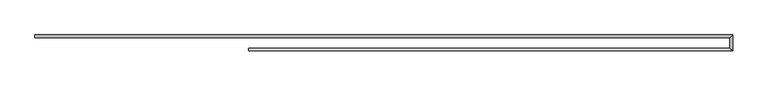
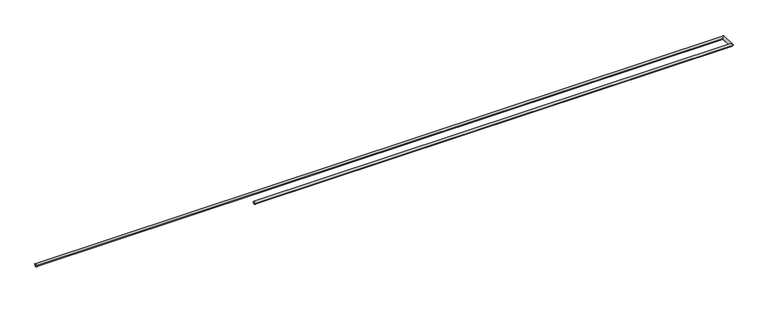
"""IFC4 building model written with IfcOpenShell, lengths in millimetres: railing geometry, Corrimão em aço."""

import ifcopenshell
import ifcopenshell.guid

model = None  # the IFC model being written
_history = None  # IfcOwnerHistory: only IFC2X3 demands one
_inside = {}  # id of a spatial element -> (the spatial element, [elements in it])
_under = {}  # id of a project, library or spatial element -> (it, [spatial elements below it])
_declared = {}  # id of a project -> (the project, [libraries it declares])
_typed = {}  # id of a type object -> (the type object, [elements of that type])
_made_of = {}  # id of a material, layer set ... -> (it, [elements and type objects made of it])


def new_model(schema):
    """Start an empty IFC model of exactly this schema.

    Asked for "IFC4X3", IfcOpenShell would pick the latest addendum, in which some entities
    have other attributes; the version numbers below select the first issue.
    IFC2X3 requires an IfcOwnerHistory on every rooted entity: one is made here for all.
    """
    global model, _history
    if schema == "IFC4X3":
        model = ifcopenshell.file(schema_version=(4, 3, 0, 0))
    else:
        model = ifcopenshell.file(schema=schema)
    _inside.clear()
    _under.clear()
    _declared.clear()
    _typed.clear()
    _made_of.clear()
    _history = None
    if model.schema == "IFC2X3":
        org = make("IfcOrganization", Name="unknown")
        user = make(
            "IfcPersonAndOrganization",
            ThePerson=make("IfcPerson", FamilyName="unknown"),
            TheOrganization=org,
        )
        app = make(
            "IfcApplication",
            ApplicationDeveloper=org,
            Version="unknown",
            ApplicationFullName="unknown",
            ApplicationIdentifier="unknown",
        )
        _history = make(
            "IfcOwnerHistory",
            OwningUser=user,
            OwningApplication=app,
            ChangeAction="ADDED",
            CreationDate=0,
        )
    return model


def make(cls, **values):
    """One entity of the class cls with the attributes given. An attribute that is None is left unset."""
    return model.create_entity(
        cls, **{name: value for name, value in values.items() if value is not None}
    )


def rooted(cls, **values):
    """An entity with a GlobalId (a new one), such as an element, a storey or a relation."""
    return make(cls, GlobalId=ifcopenshell.guid.new(), OwnerHistory=_history, **values)


def si_unit(unit_type, name, prefix=None):
    """IfcSIUnit, for example si_unit("LENGTHUNIT", "METRE", prefix="MILLI")."""
    return make("IfcSIUnit", UnitType=unit_type, Prefix=prefix, Name=name)


def assignment(units):
    """IfcUnitAssignment: the units of a project."""
    return None if units is None else make("IfcUnitAssignment", Units=units)


def point(xyz):
    """IfcCartesianPoint."""
    return None if xyz is None else make("IfcCartesianPoint", Coordinates=xyz)


def direction(xyz):
    """IfcDirection."""
    return None if xyz is None else make("IfcDirection", DirectionRatios=xyz)


def frame(location, z_axis=None, x_axis=None):
    """IfcAxis2Placement3D, a coordinate frame: its origin and axes. An axis left out is left unset."""
    return make(
        "IfcAxis2Placement3D",
        Location=point(location),
        Axis=direction(z_axis),
        RefDirection=direction(x_axis),
    )


def origin():
    """The frame at (0, 0, 0) with its axes left unset."""
    return frame((0.0, 0.0, 0.0))


def place(relative_to, where):
    """IfcLocalPlacement: puts the frame where relative to a parent placement (None: the world)."""
    return make(
        "IfcLocalPlacement", PlacementRelTo=relative_to, RelativePlacement=where
    )


def context(
    kind, dimensions, precision=None, world=None, true_north=None, identifier=None
):
    """IfcGeometricRepresentationContext, for example the 3D "Model" context."""
    return make(
        "IfcGeometricRepresentationContext",
        ContextIdentifier=identifier,
        ContextType=kind,
        CoordinateSpaceDimension=dimensions,
        Precision=precision,
        WorldCoordinateSystem=world,
        TrueNorth=true_north,
    )


def project(units=None, contexts=None):
    """IfcProject with its units and contexts."""
    return rooted(
        "IfcProject",
        Name="project",
        RepresentationContexts=contexts,
        UnitsInContext=assignment(units),
    )


def spatial(cls, under=None, at=None, **own):
    """A site, building, storey or space (cls), placed at a placement, below another one or the project."""
    s = rooted(cls, ObjectPlacement=at, **own)
    if under is not None:
        _under.setdefault(under.id(), (under, []))[1].append(s)
    return s


def circle_curve(where, radius):
    """IfcCircle in the frame where."""
    return make("IfcCircle", Position=where, Radius=radius)


def ellipse_curve(where, semi_axis1, semi_axis2):
    """IfcEllipse in the frame where."""
    return make(
        "IfcEllipse", Position=where, SemiAxis1=semi_axis1, SemiAxis2=semi_axis2
    )


def shape(context_of_items, identifier, shape_type, items):
    """IfcShapeRepresentation: the items that make up one representation, for example the "Body"."""
    return make(
        "IfcShapeRepresentation",
        ContextOfItems=context_of_items,
        RepresentationIdentifier=identifier,
        RepresentationType=shape_type,
        Items=items,
    )


def source(mapping_origin, context_of_items, identifier, shape_type, items):
    """IfcRepresentationMap: a shape defined once, which mapped items show again and again."""
    return make(
        "IfcRepresentationMap",
        MappingOrigin=mapping_origin,
        MappedRepresentation=shape(context_of_items, identifier, shape_type, items),
    )


def transform(
    local_origin,
    x_axis=None,
    y_axis=None,
    z_axis=None,
    scale=None,
    scale2=None,
    scale3=None,
    uniform=True,
):
    """IfcCartesianTransformationOperator3D, or its non-uniform kind. x_axis, y_axis, z_axis: its Axis1, 2, 3."""
    if uniform:
        return make(
            "IfcCartesianTransformationOperator3D",
            Axis1=direction(x_axis),
            Axis2=direction(y_axis),
            LocalOrigin=point(local_origin),
            Scale=scale,
            Axis3=direction(z_axis),
        )
    return make(
        "IfcCartesianTransformationOperator3DnonUniform",
        Axis1=direction(x_axis),
        Axis2=direction(y_axis),
        LocalOrigin=point(local_origin),
        Scale=scale,
        Axis3=direction(z_axis),
        Scale2=scale2,
        Scale3=scale3,
    )


def mapped(mapping_source, mapping_target):
    """IfcMappedItem: shows the shape of a source again, moved by a transform."""
    return make(
        "IfcMappedItem", MappingSource=mapping_source, MappingTarget=mapping_target
    )


def made_of(thing, what):
    """Note that an element or type object is made of a material, layer set ...; save() writes the relation."""
    if what is not None:
        _made_of.setdefault(what.id(), (what, []))[1].append(thing)
    return thing


def element(
    cls,
    number,
    at=None,
    inside=None,
    cuts=None,
    type_object=None,
    material=None,
    context=None,
    identifier="Body",
    shape_type=None,
    held_by="IfcProductDefinitionShape",
    body=None,
    shapes=None,
    **own,
):
    """One element of the class cls, such as IfcWall. Its Tag is "e" and its number.

    at: its placement. inside: the storey or other place that contains it. cuts: it is an
    opening in that element (IfcRelVoidsElement). A single representation is given by context,
    identifier, shape_type and body (its items); several are given by shapes. held_by: the class
    of the entity that holds the representations. save() writes the other relations.
    """
    e = rooted(cls, Tag="e%d" % number, ObjectPlacement=at, **own)
    if body is not None:
        shapes = [shape(context, identifier, shape_type, body)]
    if shapes is not None:
        e.Representation = make(held_by, Representations=shapes)
    if inside is not None:
        _inside.setdefault(inside.id(), (inside, []))[1].append(e)
    if cuts is not None:
        rooted(
            "IfcRelVoidsElement", RelatingBuildingElement=cuts, RelatedOpeningElement=e
        )
    if type_object is not None:
        _typed.setdefault(type_object.id(), (type_object, []))[1].append(e)
    return made_of(e, material)


def aggregate(whole, parts):
    """IfcRelAggregates: a whole, such as a stair, and the parts it consists of."""
    return rooted("IfcRelAggregates", RelatingObject=whole, RelatedObjects=parts)


def save(model, path):
    """Write the relations noted so far, then the file.

    IfcRelAggregates (storeys below a building ...), IfcRelContainedInSpatialStructure (elements
    in a storey), IfcRelDefinesByType, IfcRelAssociatesMaterial and IfcRelDeclares: one each for
    every whole, place, type object, material and project.
    """
    for whole, parts in _under.values():
        aggregate(whole, parts)
    for where, things in _inside.values():
        rooted(
            "IfcRelContainedInSpatialStructure",
            RelatedElements=things,
            RelatingStructure=where,
        )
    for kind, things in _typed.values():
        rooted("IfcRelDefinesByType", RelatedObjects=things, RelatingType=kind)
    for what, things in _made_of.values():
        rooted("IfcRelAssociatesMaterial", RelatedObjects=things, RelatingMaterial=what)
    for by, libraries in _declared.values():
        rooted("IfcRelDeclares", RelatingContext=by, RelatedDefinitions=libraries)
    model.write(path)


def plane_surface(at):
    """IfcPlane: the flat surface through the origin of the frame at, square to its z axis."""
    return make("IfcPlane", Position=at)


def cylinder_surface(at, radius):
    """IfcCylindricalSurface: all points at the distance radius from the z axis of the frame at."""
    return make("IfcCylindricalSurface", Position=at, Radius=radius)


def advanced_brep(points, edges, surfaces, faces):
    """IfcAdvancedBrep: a solid bounded by faces that lie on surfaces and meet in shared edges.

    An edge is (start, end): straight between two places in points (the first is 0);
    or (start, end, curve); or (start, end, curve, False) where it runs against its curve.
    A face is (place in surfaces, loops), or (place, loops, False) where it looks against
    its surface's normal. A loop lists edges by number (the first is 1), with a minus sign
    where the edge is run from its end to its start. The first loop is the outer one.
    """
    corners = [point(p) for p in points]
    vertices = [make("IfcVertexPoint", VertexGeometry=c) for c in corners]
    made = []
    for start, end, *more in edges:
        made.append(
            make(
                "IfcEdgeCurve",
                EdgeStart=vertices[start],
                EdgeEnd=vertices[end],
                EdgeGeometry=more[0] if more else make("IfcPolyline", Points=[corners[start], corners[end]]),
                SameSense=more[1] if len(more) > 1 else True,
            )
        )
    hull = []
    for where, loops, *sense in faces:
        bounds = []
        for j, loop in enumerate(loops):
            ring = [make("IfcOrientedEdge", EdgeElement=made[abs(k) - 1], Orientation=k > 0) for k in loop]
            bounds.append(
                make(
                    "IfcFaceOuterBound" if j == 0 else "IfcFaceBound",
                    Bound=make("IfcEdgeLoop", EdgeList=ring),
                    Orientation=True,
                )
            )
        hull.append(make("IfcAdvancedFace", Bounds=bounds, FaceSurface=surfaces[where], SameSense=sense[0] if sense else True))
    return make("IfcAdvancedBrep", Outer=make("IfcClosedShell", CfsFaces=hull))


def railing_9a9ca335(model_context):
    return source(origin(), model_context, "Body", "AdvancedBrep", [
        advanced_brep(
        [(-12174.342202, -9497.0637549, 470.0), (-12174.342202, -9537.0637549, 470.0), (-1697.3834094, -9497.0637549, 470.0), (-1737.3834094, -9537.0637549, 470.0), (-1697.3834094, -9737.0637549, 470.0), (-1737.3834094, -9697.0637549, 470.0), (-8967.3834094, -9737.0637549, 470.0), (-8967.3834094, -9697.0637549, 470.0)],
        [
            (0, 1, circle_curve(frame((-12174.342202, -9517.0637549, 470.0), z_axis=(-1.0, 0.0, 0.0), x_axis=(0.0, -1.0, 0.0)), 20.0)),
            (1, 0, circle_curve(frame((-12174.342202, -9517.0637549, 470.0), z_axis=(-1.0, 0.0, 0.0), x_axis=(0.0, -1.0, 0.0)), 20.0)),
            (0, 2),
            (2, 3, ellipse_curve(frame((-1717.3834094, -9517.0637549, 470.0), z_axis=(-0.7071067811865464, 0.7071067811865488, 0.0), x_axis=(-0.7071067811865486, -0.7071067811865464, 0.0)), 28.2842712, 20.0)),
            (3, 1),
            (3, 2, ellipse_curve(frame((-1717.3834094, -9517.0637549, 470.0), z_axis=(-0.7071067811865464, 0.7071067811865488, 0.0), x_axis=(-0.7071067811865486, -0.7071067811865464, 0.0)), 28.2842712, 20.0)),
            (2, 4),
            (4, 5, ellipse_curve(frame((-1717.3834094, -9717.0637549, 470.0), z_axis=(0.7071067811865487, 0.7071067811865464, 0.0), x_axis=(-0.7071067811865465, 0.7071067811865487, 0.0)), 28.2842712, 20.0)),
            (5, 3),
            (5, 4, ellipse_curve(frame((-1717.3834094, -9717.0637549, 470.0), z_axis=(0.7071067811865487, 0.7071067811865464, 0.0), x_axis=(-0.7071067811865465, 0.7071067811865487, 0.0)), 28.2842712, 20.0)),
            (6, 7, circle_curve(frame((-8967.3834094, -9717.0637549, 470.0), z_axis=(-1.0, 0.0, 0.0), x_axis=(0.0, 1.0, 0.0)), 20.0)),
            (7, 6, circle_curve(frame((-8967.3834094, -9717.0637549, 470.0), z_axis=(-1.0, 0.0, 0.0), x_axis=(0.0, 1.0, 0.0)), 20.0)),
            (4, 6),
            (7, 5),
        ],
        [
            plane_surface(frame((-12174.342202, -9517.0637549, 490.0), z_axis=(-1.0, 0.0, 0.0), x_axis=(0.0, 1.0, 0.0))),
            cylinder_surface(frame((-12174.342202, -9517.0637549, 470.0), z_axis=(-1.0, 0.0, 0.0), x_axis=(0.0, -1.0, 0.0)), 20.0),
            cylinder_surface(frame((-1717.3834094, -9517.0637549, 470.0), z_axis=(0.0, 1.0, 0.0), x_axis=(-1.0, 0.0, 0.0)), 20.0),
            plane_surface(frame((-8967.3834094, -9717.0637549, 490.0), z_axis=(-1.0, 0.0, 0.0), x_axis=(0.0, -1.0, 0.0))),
            cylinder_surface(frame((-1717.3834094, -9717.0637549, 470.0), z_axis=(1.0, 0.0, 0.0), x_axis=(0.0, 1.0, 0.0)), 20.0),
        ],
        [
            (0, [[1, 2]]),
            (1, [[-1, 3, 4, 5]]),
            (1, [[-2, -5, 6, -3]]),
            (2, [[-4, 7, 8, 9]]),
            (2, [[-6, -9, 10, -7]]),
            (3, [[11, 12]]),
            (4, [[-8, 13, -12, 14]]),
            (4, [[-10, -14, -11, -13]]),
        ],
    ),
    ])


if __name__ == "__main__":
    model = new_model("IFC4")
    model_context = context("Model", 3, world=origin())
    ifc_project = project(units=[si_unit("LENGTHUNIT", "METRE", prefix="MILLI")], contexts=[model_context])
    site = spatial("IfcSite", under=ifc_project)
    building = spatial("IfcBuilding", under=site)
    placement = place(None, origin())
    railing_shape = railing_9a9ca335(model_context)
    element("IfcRailing", 1, ObjectType="Corrimão em aço", at=placement, inside=building, context=model_context, shape_type="MappedRepresentation", body=[
        mapped(railing_shape, transform((0.0, 0.0, 0.0), x_axis=(1.0, 0.0, 0.0), y_axis=(0.0, 1.0, 0.0), z_axis=(0.0, 0.0, 1.0))),
    ])
    save(model, "model.ifc")
